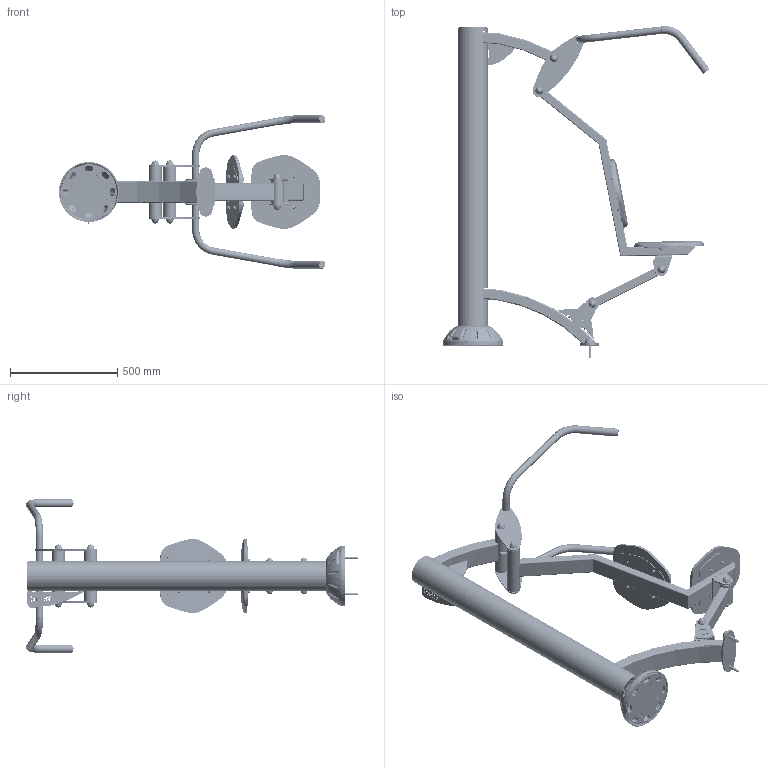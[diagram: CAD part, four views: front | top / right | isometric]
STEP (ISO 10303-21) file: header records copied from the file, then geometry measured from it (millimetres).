
FILE_DESCRIPTION (( 'STEP AP203' ), '1' );
FILE_NAME ('M0302-F - PORTEUR ASS V1.0.STEP', '2019-06-26T07:56:34', ( '' ), ( '' ), 'SwSTEP 2.0', 'SolidWorks 2018', '' );
FILE_SCHEMA (( 'CONFIG_CONTROL_DESIGN' ));
Length unit declared in the file: millimetre
Products named in the file (59): POIGPORT-M0312 - POIGNEE PORTEUR ASS V3.0; PU-TDRFIT138 - Tole renfort L138 H106 V1.0; SA1409A - Axe Inox D.20mm L156,3mm V1.0; SBB2130 - BOITE A BUTEE 17° OUVERTE ASS V1.0_Chape 110; SCH1806.A - Chapeau D135 V1.0; TOLPL-230-90.A - Platine 230x90 V1.0; SC0304 - Demi cache platine D140 V4.0; PU-TOLPLAT - Platine base V1.0; M0302-F - PORTEUR ASS V1.0; PU-TOLANTCO61 - Tole anti coincement  pour bague D.61 V1.0; SB0112 - Vis Torx teton central M8x20_M8x20; TRESSPORT-M0312 - Tube support siege porteur V3.0; SBA1608 - Bague 6204 L232 rainuré pour 100x50 V1.0; PU-TRETRAV388 - Tube rectangulaire cintré R750 100x50x3 L388 V1.0_RAL7012; SR0431 - Rondelle plastique pour roulement 6204 ép 5,3 V1.0; SR0415 - Rondelle Grower M8 A2; ARTICULATION D60 CHAPE 110 V4.0_Avec rondelle SR0431; SSD0720 - SIEGE DOSSIER ASS V1.2_‚p.5 - Fixation siŠge; SBB2104 - Paroie support butee V4.1; SSD0720 - SIEGE DOSSIER ASS V1.2_‚p.5 - Fixation dossier; SUPPORT BUTEE CHAPE 110 ASS V4.3_Sans but‚es progressives; SBA1607 - Bague 6204 L232 V1.0; SC0309 - Petit capuchon en nylon 44 mm; BASEPORT-M0312 - BASE PORTEUR ASS V3.0; SR0404 - Rondelle plate Moyenne M8 A2; SP0607 - Poignee plastique D.33,7 L=300_Porteur; SCH1808 - Chapeau 76x51 pour tube 80x40 coupe à 45°; BIELLEPOR-M0312 - BIELLE PORTEUR V4.0_Avec cƒle 6 mm; SBA1600 - Bague 6204 L107 V1.0; PLATINE BASE ASS V2.0; SF1100 - Ecrou frein M8 A2; SC0306B - Base pour capuchon en nylon 36mm; SCHP2001.C - Chape pliee 124 廧 6 V2.2; SSD0720 - Dossier-siège V1.2; TOLCHPORT.C - Tole chape porteur V4.2; SC0308 - Base pour capuchon en nylon 44 mm; TROPPOR-M0312B - Tube poignee porteur V2.1; SSD0718 - Demi plaque dossier béton pour tube 80x40 V1.0; TOLGOUR775-17 - Gousset pour tube R775 et boite à butée 17° V1.0; PU-TRETRAV655 - Tube rectangulaire cintré R750 100x50x3 L655 V1.0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
Assembly tree (120 placements, depth 4):
  M0302-F - PORTEUR ASS V1.0
    M0302-B - CHASSIS PORTEUR ASS V1.0
      PLATINE BASE ASS V2.0
        PU-TOLPLAT - Platine base V1.0
        PU-TOLGOPL - Gousset platine V2.0  x4
      PU-TROCB1468S - Colonne base haute D.139,7x3 Ht1468 Porteur ou Pousseur simple V1.0
      SCH1806.A - Chapeau D135 V1.0
      SBB2130 - BOITE A BUTEE 17° OUVERTE ASS V1.0_Chape 110
        SBB2114.A - Flasque boite a butee 17° V1.1  x2
        SBB2113.A - Plaque latérale longue pour chape 110 ep.6 boite a butee V1.1__  x2
      TOLPL-230-90.A - Platine 230x90 V1.0
      SBA1608 - Bague 6204 L232 rainuré pour 100x50 V1.0
      PU-TDRFIT138 - Tole renfort L138 H106 V1.0
      TOLGOUR775-17 - Gousset pour tube R775 et boite à butée 17° V1.0  x2
      PU-TOLANTCO61 - Tole anti coincement  pour bague D.61 V1.0
      PU-TRETRAV388 - Tube rectangulaire cintré R750 100x50x3 L388 V1.0_RAL7012
      PU-TRETRAV655 - Tube rectangulaire cintré R750 100x50x3 L655 V1.0
      TOLLOCOL - Tole logo colonne V1.0
    SC0304 - CACHE PLATINE ASS V4.0
      SC0304 - Demi cache platine D140 V4.0
      SB0112 - Vis Torx teton central M8x20_M8x20  x2
    ARTICULATION D60 CHAPE 235 V1.0  x2
      SA1424 - Axe Inox D.20mm L281,3mm V1.0
      SC0306B - Base pour capuchon en nylon 36mm
      SC0306C - Petit capuchon en nylon 36 mm
      SF1101 - Ecrou frein M10 A2
      SR0416 - Rondelle plate petite M10 A2 ext 22mm
      SRR0816 - Roulement  6204 47-20-14
      SR0431 - Rondelle plastique pour roulement 6204 ép 5,3 V1.0
    ARTICULATION D60 CHAPE 110 V4.0_Avec rondelle SR0431  x2
      SA1409A - Axe Inox D.20mm L156,3mm V1.0
      SC0306B - Base pour capuchon en nylon 36mm
      SC0306C - Petit capuchon en nylon 36 mm
      SF1101 - Ecrou frein M10 A2
      SR0416 - Rondelle plate petite M10 A2 ext 22mm
      SRR0816 - Roulement  6204 47-20-14
      SR0431 - Rondelle plastique pour roulement 6204 ép 5,3 V1.0
    BIELLEPOR-M0312 - BIELLE PORTEUR V4.0_Avec cƒle 6 mm
      SBA1305 - Tube de liaison 80x40 L310 V1.0
      SUPPORT BUTEE CHAPE 110 ASS V4.3_Sans but‚es progressives
        SBB2105.A - Support butee chape 110 V1.1
        SBB2104 - Paroie support butee V4.1  x2
        SBU1007 - Butee elastomere 60x38x20 V1.1_60x38x20  x2
        SF1100 - Ecrou frein M8 A2
        SR0404 - Rondelle plate Moyenne M8 A2  x2
        SB0122 - Vis CHC M8x35 inox A2
      SBA1600 - Bague 6204 L107 V1.0  x2
    SSD0720 - SIEGE DOSSIER ASS V1.2_‚p.5 - Fixation siŠge
      SSD0720 - Dossier-siège V1.2
      SR0404 - Rondelle plate Moyenne M8 A2  x4
      SB0112 - Vis Torx teton central M8x20_M8x20  x4
      SR0415 - Rondelle Grower M8 A2  x4
    SSD0720 - SIEGE DOSSIER ASS V1.2_‚p.5 - Fixation dossier
      SSD0720 - Dossier-siège V1.2
      SR0404 - Rondelle plate Moyenne M8 A2  x4
      SB0112 - Vis Torx teton central M8x20_M8x20  x4
      SR0415 - Rondelle Grower M8 A2  x4
    BASEPORT-M0312 - BASE PORTEUR ASS V3.0
      TRESSPORT-M0312 - Tube support siege porteur V3.0
      SBA1607 - Bague 6204 L232 V1.0
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Bounding box: 1243.77 x 1550.32 x 716.69 mm (x, y, z)
Volume: 12738674.4 mm3; surface area: 4847757.3 mm2
Topology: 169 solids, 169 shells, 3849 faces, 9172 edges, 5820 vertices
Faces by surface type: cylinder 1296, plane 955, cone 579, bspline 445, torus 390, sphere 184
Entity records: 151955 total; most frequent: CARTESIAN_POINT 106714, ORIENTED_EDGE 8086, DIRECTION 7334, EDGE_CURVE 4043, AXIS2_PLACEMENT_3D 2915, VERTEX_POINT 2579, EDGE_LOOP 1860, ADVANCED_FACE 1638
